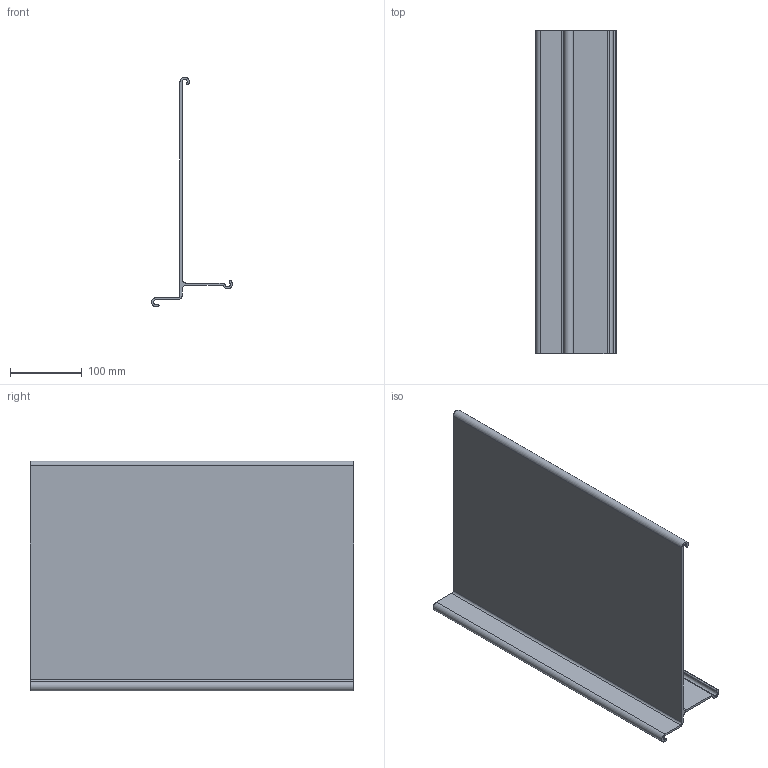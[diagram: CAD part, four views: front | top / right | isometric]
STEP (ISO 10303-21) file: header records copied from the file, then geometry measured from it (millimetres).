
FILE_DESCRIPTION(/* description */ (''),/* implementation_level */ '2;1');
FILE_NAME(/* name */ 'archiviovivo M',/* time_stamp */ '2017-04-12T12:14:43+02:00',/* author */ (''),/* organization */ (''),/* preprocessor_version */ 'ST-DEVELOPER v10',/* originating_system */ '',/* authorisation */ '');
FILE_SCHEMA (('CONFIG_CONTROL_DESIGN'));
Length unit declared in the file: millimetre
Products named in the file (1): 1
Bounding box: 112.48 x 450 x 319.99 mm (x, y, z)
Volume: 617782.1 mm3; surface area: 409002.7 mm2
Topology: 1 solids, 1 shells, 28 faces, 78 edges, 52 vertices
Faces by surface type: bspline 15, plane 13
Entity records: 1028 total; most frequent: CARTESIAN_POINT 479, ORIENTED_EDGE 156, EDGE_CURVE 78, VERTEX_POINT 52, B_SPLINE_CURVE_WITH_KNOTS 48, ADVANCED_FACE 28, FACE_OUTER_BOUND 28, EDGE_LOOP 28
